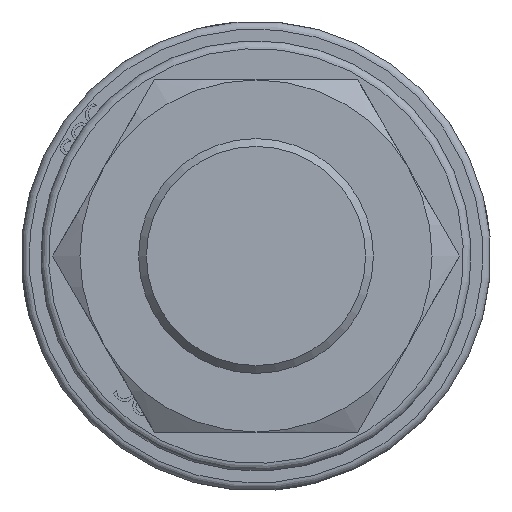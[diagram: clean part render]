
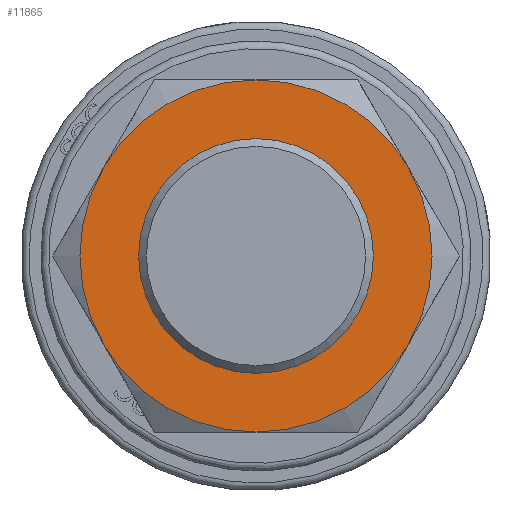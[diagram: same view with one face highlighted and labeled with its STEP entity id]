
A CAD part, front view. The second image highlights one B-rep face of the part: STEP entity #11865.
In plain terms, the highlighted planar face has unit normal (0, -1, 0) as drawn and (-1, 0, 0) by its records, which use the part's own axes.
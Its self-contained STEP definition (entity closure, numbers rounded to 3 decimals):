
#112=CIRCLE('',#12505,30.);
#114=CIRCLE('',#12509,45.);
#115=CIRCLE('',#12510,45.);
#116=CIRCLE('',#12511,45.);
#117=CIRCLE('',#12512,45.);
#118=CIRCLE('',#12513,45.);
#119=CIRCLE('',#12514,45.);
#182=FACE_BOUND('',#1584,.T.);
#399=PLANE('',#12508);
#864=FACE_OUTER_BOUND('',#1583,.T.);
#1583=EDGE_LOOP('',(#9354,#9355,#9356,#9357,#9358,#9359));
#1584=EDGE_LOOP('',(#9360));
#5296=VERTEX_POINT('',#18154);
#5298=VERTEX_POINT('',#18160);
#5299=VERTEX_POINT('',#18161);
#5300=VERTEX_POINT('',#18163);
#5301=VERTEX_POINT('',#18165);
#5302=VERTEX_POINT('',#18167);
#5303=VERTEX_POINT('',#18169);
#6755=EDGE_CURVE('',#5296,#5296,#112,.T.);
#6757=EDGE_CURVE('',#5298,#5299,#114,.T.);
#6758=EDGE_CURVE('',#5299,#5300,#115,.T.);
#6759=EDGE_CURVE('',#5300,#5301,#116,.T.);
#6760=EDGE_CURVE('',#5301,#5302,#117,.T.);
#6761=EDGE_CURVE('',#5302,#5303,#118,.T.);
#6762=EDGE_CURVE('',#5303,#5298,#119,.T.);
#9354=ORIENTED_EDGE('',*,*,#6757,.T.);
#9355=ORIENTED_EDGE('',*,*,#6758,.T.);
#9356=ORIENTED_EDGE('',*,*,#6759,.T.);
#9357=ORIENTED_EDGE('',*,*,#6760,.T.);
#9358=ORIENTED_EDGE('',*,*,#6761,.T.);
#9359=ORIENTED_EDGE('',*,*,#6762,.T.);
#9360=ORIENTED_EDGE('',*,*,#6755,.F.);
#11865=ADVANCED_FACE('',(#864,#182),#399,.F.);
#12505=AXIS2_PLACEMENT_3D('',#18155,#13626,#13627);
#12508=AXIS2_PLACEMENT_3D('',#18159,#13632,#13633);
#12509=AXIS2_PLACEMENT_3D('',#18162,#13634,#13635);
#12510=AXIS2_PLACEMENT_3D('',#18164,#13636,#13637);
#12511=AXIS2_PLACEMENT_3D('',#18166,#13638,#13639);
#12512=AXIS2_PLACEMENT_3D('',#18168,#13640,#13641);
#12513=AXIS2_PLACEMENT_3D('',#18170,#13642,#13643);
#12514=AXIS2_PLACEMENT_3D('',#18171,#13644,#13645);
#13626=DIRECTION('center_axis',(-1.,0.,0.));
#13627=DIRECTION('ref_axis',(0.,0.,-1.));
#13632=DIRECTION('center_axis',(1.,0.,0.));
#13633=DIRECTION('ref_axis',(0.,0.,-1.));
#13634=DIRECTION('center_axis',(-1.,0.,0.));
#13635=DIRECTION('ref_axis',(0.,1.,0.));
#13636=DIRECTION('center_axis',(-1.,0.,0.));
#13637=DIRECTION('ref_axis',(0.,1.,0.));
#13638=DIRECTION('center_axis',(-1.,0.,0.));
#13639=DIRECTION('ref_axis',(0.,1.,0.));
#13640=DIRECTION('center_axis',(-1.,0.,0.));
#13641=DIRECTION('ref_axis',(0.,1.,0.));
#13642=DIRECTION('center_axis',(-1.,0.,0.));
#13643=DIRECTION('ref_axis',(0.,1.,0.));
#13644=DIRECTION('center_axis',(-1.,0.,0.));
#13645=DIRECTION('ref_axis',(0.,1.,0.));
#18154=CARTESIAN_POINT('',(0.,0.,30.));
#18155=CARTESIAN_POINT('Origin',(0.,0.,0.));
#18159=CARTESIAN_POINT('Origin',(0.,0.,0.));
#18160=CARTESIAN_POINT('',(0.,-38.971,-22.5));
#18161=CARTESIAN_POINT('',(0.,-38.971,22.5));
#18162=CARTESIAN_POINT('Origin',(0.,0.,0.));
#18163=CARTESIAN_POINT('',(0.,0.,45.));
#18164=CARTESIAN_POINT('Origin',(0.,0.,0.));
#18165=CARTESIAN_POINT('',(0.,38.971,22.5));
#18166=CARTESIAN_POINT('Origin',(0.,0.,0.));
#18167=CARTESIAN_POINT('',(0.,38.971,-22.5));
#18168=CARTESIAN_POINT('Origin',(0.,0.,0.));
#18169=CARTESIAN_POINT('',(0.,0.,-45.));
#18170=CARTESIAN_POINT('Origin',(0.,0.,0.));
#18171=CARTESIAN_POINT('Origin',(0.,0.,0.));
